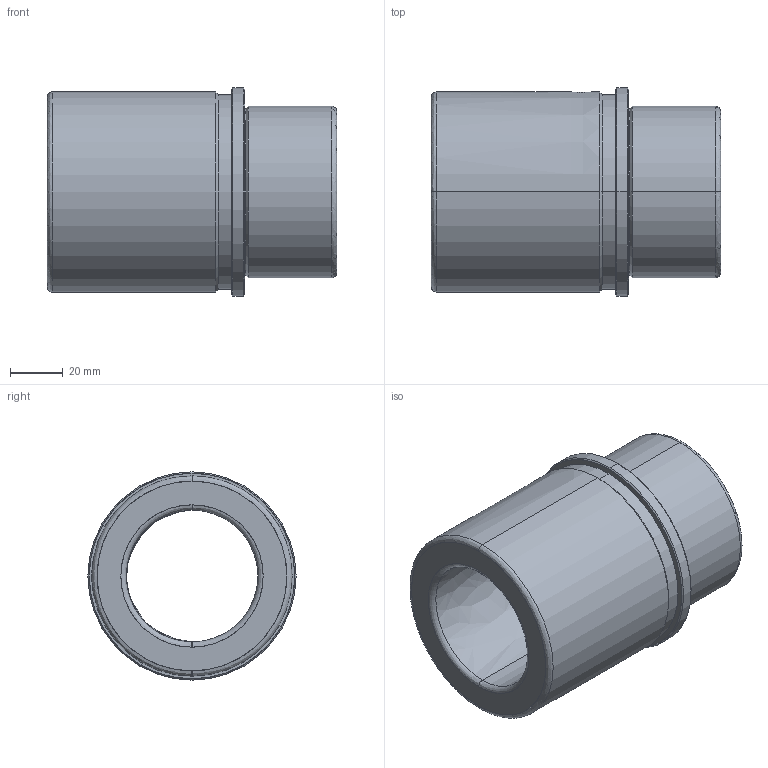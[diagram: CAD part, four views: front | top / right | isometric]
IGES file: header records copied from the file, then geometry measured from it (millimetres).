
Start section: START RECORD GO HERE.
Global section: file name: FAMO-SF1-E50 x 110.igs; native system: DASSAULT SYSTEMES CATIA V5 R20 - www.3ds.com; preprocessor: CATIA Version 5 Release 20 ; author: Utente; organization: NB04-ASUS; date: 20210106.174103; units: millimetre
Bounding box: 110 x 79 x 79 mm (x, y, z)
Surface area: 48555.8 mm2 (no closed solid volume)
Topology: 0 solids, 0 shells, 37 faces, 252 edges, 252 vertices
Faces by surface type: revolution 32, plane 5
